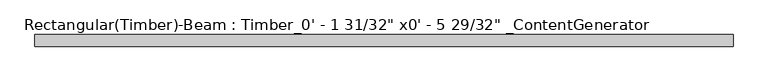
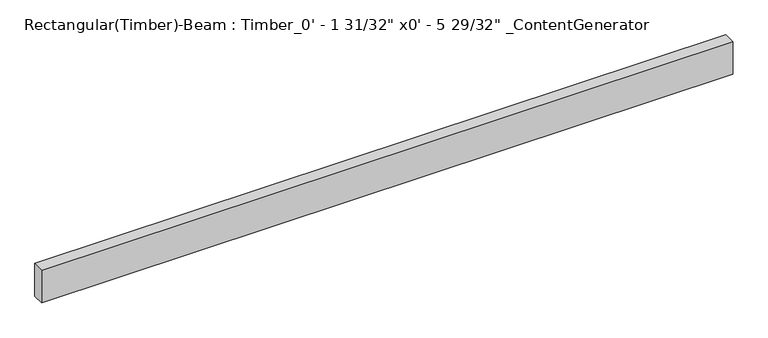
"""IFC4 building model written with IfcOpenShell, lengths in millimetres: beam geometry."""

from ifc_helpers import new_model, si_unit, frame, origin, place, context, project, spatial, polyline, outline, extrude, source, transform, mapped, element, save


def beam_303ef41e(model_context):
    return source(origin(), model_context, "Body", "SweptSolid", [
        extrude(outline(polyline([(1524.0, 25.4), (1524.0, -25.4), (-1524.0, -25.4), (-1524.0, 25.4), (1524.0, 25.4)])), frame((0.0, 0.0, -76.2), z_axis=(0.0, 0.0, 1.0), x_axis=(1.0, 0.0, 0.0)), (0.0, 0.0, 1.0), 152.4),
    ])


if __name__ == "__main__":
    model = new_model("IFC4")
    model_context = context("Model", 3, world=origin())
    ifc_project = project(units=[si_unit("LENGTHUNIT", "METRE", prefix="MILLI")], contexts=[model_context])
    site = spatial("IfcSite", under=ifc_project)
    building = spatial("IfcBuilding", under=site)
    placement = place(None, origin())
    beam_shape = beam_303ef41e(model_context)
    element("IfcBeam", 1, ObjectType="Rectangular(Timber)-Beam : Timber_0' - 1 31/32\" x0' - 5 29/32\" _ContentGenerator", at=placement, inside=building, context=model_context, shape_type="MappedRepresentation", body=[
        mapped(beam_shape, transform((0.0, 0.0, 0.0), x_axis=(1.0, 0.0, 0.0), y_axis=(0.0, 1.0, 0.0), z_axis=(0.0, 0.0, 1.0))),
    ])
    save(model, "model.ifc")
